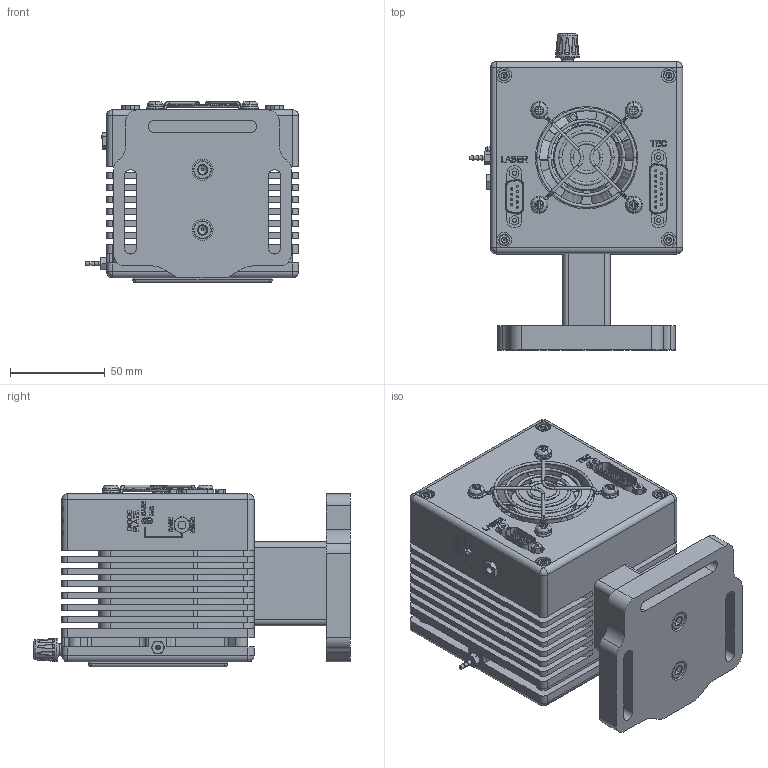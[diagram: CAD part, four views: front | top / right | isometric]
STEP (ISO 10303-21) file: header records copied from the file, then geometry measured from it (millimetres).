
FILE_DESCRIPTION (( 'STEP AP214' ), '1' );
FILE_NAME ('242-LaserMount.STEP', '2014-04-30T15:55:51', ( '' ), ( '' ), 'SwSTEP 2.0', 'SolidWorks 2014', '' );
FILE_SCHEMA (( 'AUTOMOTIVE_DESIGN' ));
Length unit declared in the file: inch
Products named in the file (1): 242-LaserMount
Bounding box: 112.73 x 167.18 x 95.96 mm (x, y, z)
Volume: 779689.7 mm3; surface area: 227521.5 mm2
Topology: 17 solids, 17 shells, 3539 faces, 9202 edges, 5965 vertices
Faces by surface type: plane 1818, bspline 834, cylinder 658, cone 227, torus 2
Full cylindrical faces by diameter (mm): 1.143 x24, 1.3 x2, 1.321 x1, 1.6 x16, 1.778 x3, 2.05 x1, 2.134 x4, 2.184 x4, 2.261 x7, 2.286 x2, 2.362 x1, 2.388 x3, 2.438 x1, 2.845 x8, 2.946 x8, 3.175 x7, 3.454 x5, 3.556 x4, 4.039 x1, 4.166 x9, 4.216 x1, 4.267 x4, 4.305 x4, 4.613 x1, 4.648 x4, 5.74 x4, 6 x1, 6.35 x10, 6.858 x5, 7.366 x6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
Entity records: 185129 total; most frequent: CARTESIAN_POINT 71571, ORIENTED_EDGE 17444, DIRECTION 13949, EDGE_CURVE 8722, VERTEX_POINT 5842, LINE 5009, VECTOR 5009, AXIS2_PLACEMENT_3D 4470
